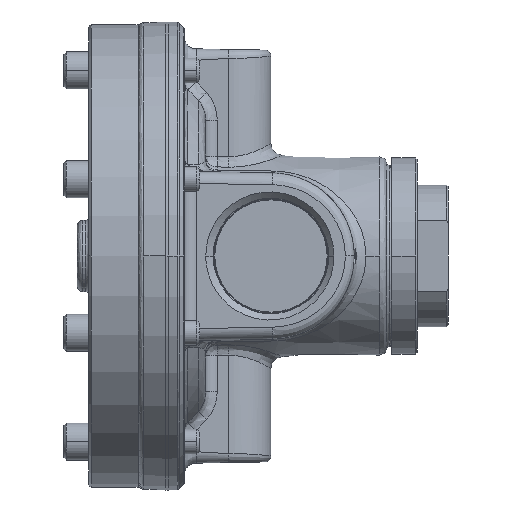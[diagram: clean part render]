
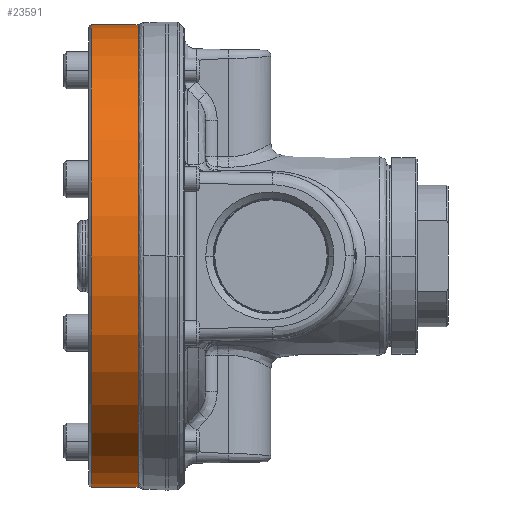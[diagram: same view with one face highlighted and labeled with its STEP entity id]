
A CAD part, left-side view. The second image highlights one B-rep face of the part: STEP entity #23591.
In plain terms, the highlighted cylindrical face has radius 59.373 mm (diameter 118.745 mm), a partial arc.
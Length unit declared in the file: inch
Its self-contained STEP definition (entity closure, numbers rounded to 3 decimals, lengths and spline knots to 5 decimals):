
#1335 = CARTESIAN_POINT ( 'NONE',  ( 0., 0.8175, 0. ) ) ;
#1336 = DIRECTION ( 'NONE',  ( 0., 1., 0. ) ) ;
#1337 = DIRECTION ( 'NONE',  ( 0., 0., -1. ) ) ;
#1655 = CARTESIAN_POINT ( 'NONE',  ( 0., 0.3425, 0. ) ) ;
#1657 = DIRECTION ( 'NONE',  ( 0., 1., 0. ) ) ;
#1659 = DIRECTION ( 'NONE',  ( 0., 0., -1. ) ) ;
#1986 = CARTESIAN_POINT ( 'NONE',  ( 0., 0.8175, 0. ) ) ;
#1988 = DIRECTION ( 'NONE',  ( 0., 1., 0. ) ) ;
#1989 = DIRECTION ( 'NONE',  ( 0., 0., -1. ) ) ;
#2876 = LINE ( 'NONE', #2888, #3743 ) ;
#2884 = CARTESIAN_POINT ( 'NONE',  ( 0., 0.9575, -2.3375 ) ) ;
#2888 = CARTESIAN_POINT ( 'NONE',  ( 0., 0.9575, 2.3375 ) ) ;
#2891 = LINE ( 'NONE', #2884, #3762 ) ;
#2893 = DIRECTION ( 'NONE',  ( 0., -1., 0. ) ) ;
#2908 = DIRECTION ( 'NONE',  ( 0., -1., 0. ) ) ;
#3428 = CIRCLE ( 'NONE', #3446, 2.3375 ) ;
#3446 = AXIS2_PLACEMENT_3D ( 'NONE', #1986, #1988, #1989 ) ;
#3628 = AXIS2_PLACEMENT_3D ( 'NONE', #6600, #6593, #6606 ) ;
#3743 = VECTOR ( 'NONE', #2893, 39.37008 ) ;
#3762 = VECTOR ( 'NONE', #2908, 39.37008 ) ;
#3922 = CIRCLE ( 'NONE', #3941, 2.3375 ) ;
#3941 = AXIS2_PLACEMENT_3D ( 'NONE', #1335, #1336, #1337 ) ;
#4093 = CIRCLE ( 'NONE', #4102, 2.3375 ) ;
#4102 = AXIS2_PLACEMENT_3D ( 'NONE', #1655, #1657, #1659 ) ;
#6593 = DIRECTION ( 'NONE',  ( 0., -1., 0. ) ) ;
#6598 = FACE_OUTER_BOUND ( 'NONE', #21732, .T. ) ;
#6600 = CARTESIAN_POINT ( 'NONE',  ( 0., 0.9575, 0. ) ) ;
#6604 = CYLINDRICAL_SURFACE ( 'NONE', #3628, 2.3375 ) ;
#6606 = DIRECTION ( 'NONE',  ( 0., 0., -1. ) ) ;
#10902 = VERTEX_POINT ( 'NONE', #24755 ) ;
#10921 = VERTEX_POINT ( 'NONE', #24774 ) ;
#10936 = VERTEX_POINT ( 'NONE', #24789 ) ;
#10992 = VERTEX_POINT ( 'NONE', #24845 ) ;
#10993 = VERTEX_POINT ( 'NONE', #24846 ) ;
#21349 = ORIENTED_EDGE ( 'NONE', *, *, #23750, .T. ) ;
#21350 = ORIENTED_EDGE ( 'NONE', *, *, #22391, .T. ) ;
#21351 = ORIENTED_EDGE ( 'NONE', *, *, #23713, .F. ) ;
#21352 = ORIENTED_EDGE ( 'NONE', *, *, #22098, .F. ) ;
#21353 = ORIENTED_EDGE ( 'NONE', *, *, #22389, .F. ) ;
#21732 = EDGE_LOOP ( 'NONE', ( #21353, #21352, #21351, #21350, #21349 ) ) ;
#22098 = EDGE_CURVE ( 'NONE', #10921, #10902, #3428, .T. ) ;
#22389 = EDGE_CURVE ( 'NONE', #10902, #10936, #2876, .T. ) ;
#22391 = EDGE_CURVE ( 'NONE', #10993, #10992, #2891, .T. ) ;
#23591 = ADVANCED_FACE ( 'NONE', ( #6598 ), #6604, .T. ) ;
#23713 = EDGE_CURVE ( 'NONE', #10993, #10921, #3922, .T. ) ;
#23750 = EDGE_CURVE ( 'NONE', #10992, #10936, #4093, .T. ) ;
#24755 = CARTESIAN_POINT ( 'NONE',  ( 0., 0.8175, 2.3375 ) ) ;
#24774 = CARTESIAN_POINT ( 'NONE',  ( -2.3375, 0.8175, 0. ) ) ;
#24789 = CARTESIAN_POINT ( 'NONE',  ( 0., 0.3425, 2.3375 ) ) ;
#24845 = CARTESIAN_POINT ( 'NONE',  ( 0., 0.3425, -2.3375 ) ) ;
#24846 = CARTESIAN_POINT ( 'NONE',  ( 0., 0.8175, -2.3375 ) ) ;
